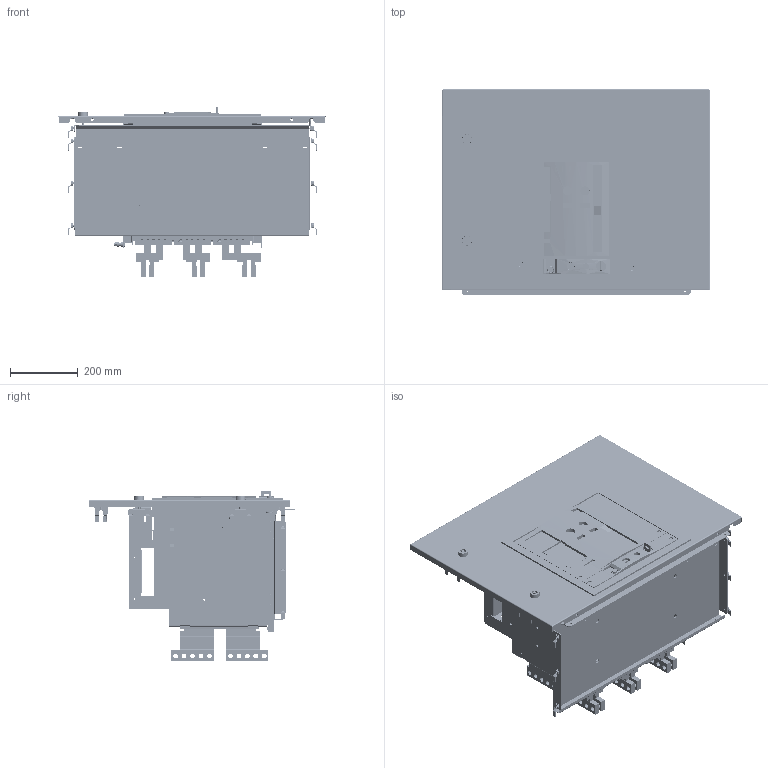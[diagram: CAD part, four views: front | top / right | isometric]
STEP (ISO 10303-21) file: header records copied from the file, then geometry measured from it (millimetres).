
FILE_DESCRIPTION(('CAx-IF Rec.Pracs.---Model Styling and Organization---1.2---2011-12-15','CAx-IF Rec.Pracs.---Geometric and Assembly Validation Properties---4.1---2014-06-16','CAx-IF Rec.Pracs.---PMI Polyline Presentation---2.0---2013-05-24'),'2;1');
FILE_NAME('R5PKEB7V81525.stp','2021-07-29T02:51:30+03:00',(''),(''),'STEP Interface 4.4 by CT CoreTechnologie','3D_Evolution4.4 by CT CoreTechnologie','');
FILE_SCHEMA(('AUTOMOTIVE_DESIGN { 1 0 10303 214 1 1 1 1 }'));
Length unit declared in the file: millimetre
Products named in the file (1): R5PKEB7V81525
Bounding box: 794 x 607.5 x 503.6 mm (x, y, z)
Surface area: 6622033.3 mm2 (no closed solid volume)
Topology: 0 solids, 138 shells, 6853 faces, 19093 edges, 12487 vertices
Faces by surface type: plane 3907, cylinder 2426, bspline 520
Entity records: 231405 total; most frequent: CARTESIAN_POINT 51991, ORIENTED_EDGE 37988, DIRECTION 36766, EDGE_CURVE 19008, VECTOR 13210, LINE 13210, VERTEX_POINT 12509, AXIS2_PLACEMENT_3D 11778
